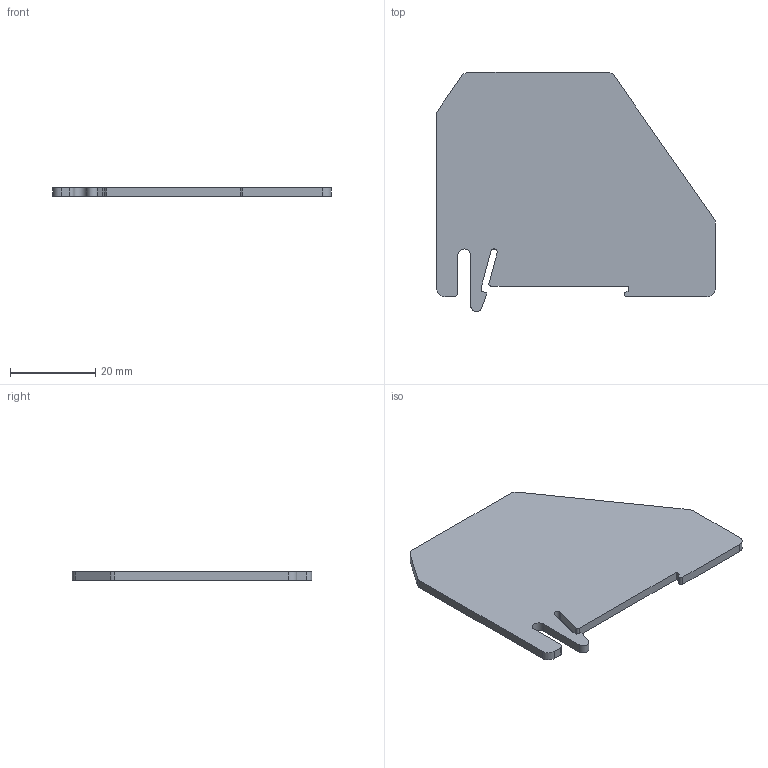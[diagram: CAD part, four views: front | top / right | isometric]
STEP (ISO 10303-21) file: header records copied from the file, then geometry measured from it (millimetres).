
FILE_DESCRIPTION(('OneSpaceDesigner STEP Export'),'2;1');
FILE_NAME('1413272_atp_dik15_select.stp','2004-08-19T10:15:02',(''),(''),'OneSpace Designer STEP processor (Jan. 2003) for AP203(Solid Model)','OneSpace Designer 12.01C 26-Mar-2004 (C) CoCreate Software GmbH','');
FILE_SCHEMA(('CONFIG_CONTROL_DESIGN'));
Length unit declared in the file: millimetre
Products named in the file (2): 1413272_atp_dik15_select
Assembly tree (1 placements, depth 2):
  1413272_atp_dik15_select
    1413272_atp_dik15_select
Bounding box: 65.3 x 56.05 x 2.05 mm (x, y, z)
Volume: 5856.9 mm3; surface area: 6253.8 mm2
Topology: 1 solids, 1 shells, 35 faces, 99 edges, 66 vertices
Faces by surface type: plane 21, cylinder 14
Entity records: 1333 total; most frequent: ORIENTED_EDGE 198, CARTESIAN_POINT 196, DIRECTION 189, EDGE_CURVE 99, VECTOR 71, LINE 71, VERTEX_POINT 66, AXIS2_PLACEMENT_3D 59
